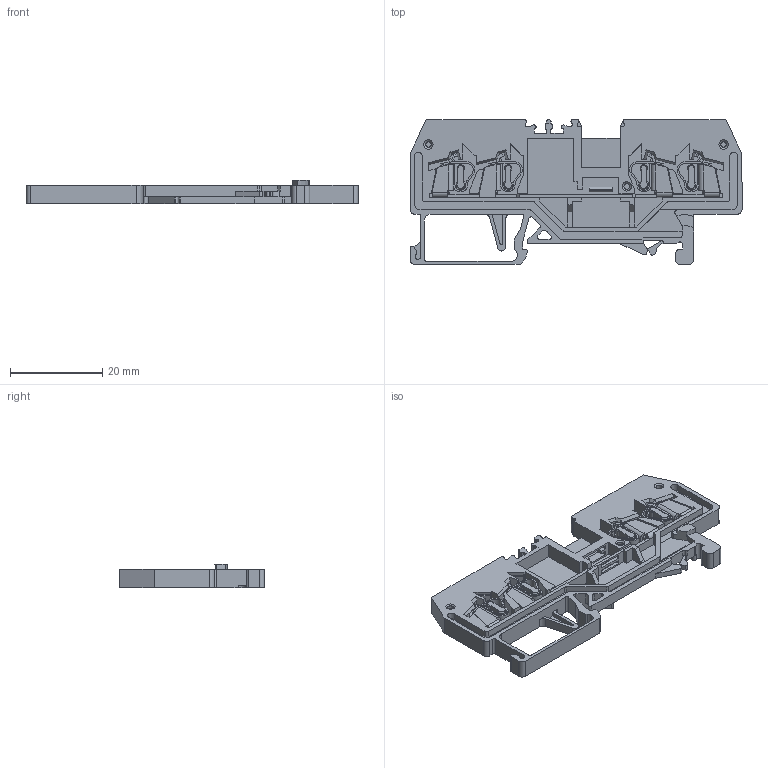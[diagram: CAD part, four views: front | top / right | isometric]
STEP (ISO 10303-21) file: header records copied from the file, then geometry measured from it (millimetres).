
FILE_DESCRIPTION (( 'STEP AP203' ), '1' );
FILE_NAME ('ﾊﾏﾐ1-1,5-4ﾂ.STEP', '2019-03-01T13:58:04', ( '' ), ( '' ), 'SwSTEP 2.0', 'SolidWorks 2016', '' );
FILE_SCHEMA (( 'CONFIG_CONTROL_DESIGN' ));
Length unit declared in the file: millimetre
Products named in the file (1): ﾊﾏﾐ1-1,5-4ﾂ
Bounding box: 72 x 31.4 x 5.1 mm (x, y, z)
Volume: 3729.1 mm3; surface area: 8438 mm2
Topology: 6 solids, 6 shells, 1126 faces, 3155 edges, 2055 vertices
Faces by surface type: plane 743, cylinder 263, bspline 85, cone 32, torus 3
Full cylindrical faces by diameter (mm): 1.4 x3, 1.6 x3
Entity records: 40798 total; most frequent: CARTESIAN_POINT 12084, ORIENTED_EDGE 6278, DIRECTION 5493, EDGE_CURVE 3139, LINE 2343, VECTOR 2343, VERTEX_POINT 2054, AXIS2_PLACEMENT_3D 1575
